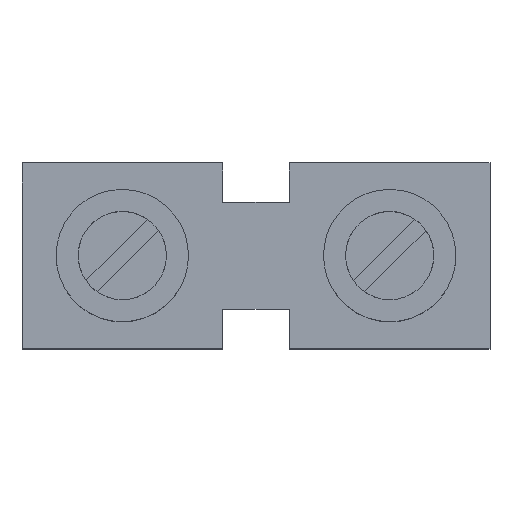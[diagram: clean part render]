
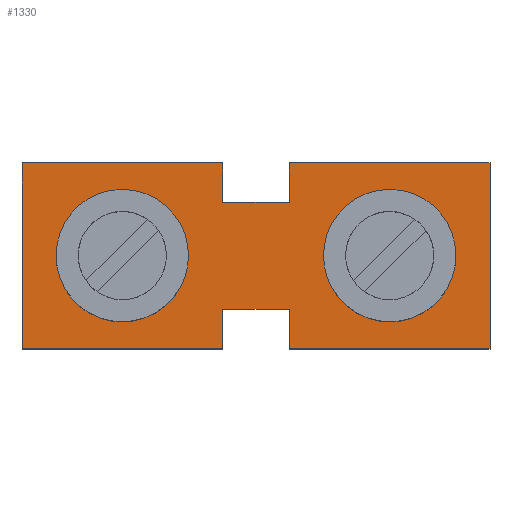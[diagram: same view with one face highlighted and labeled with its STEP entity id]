
A CAD part, top view. The second image highlights one B-rep face of the part: STEP entity #1330.
In plain terms, the highlighted planar face has unit normal (0, 0, 1).
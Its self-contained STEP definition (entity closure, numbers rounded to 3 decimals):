
#61=CARTESIAN_POINT('',(20.,2.95,13.5));
#62=VERTEX_POINT('',#61);
#69=CARTESIAN_POINT('',(20.,0.,13.5));
#70=VERTEX_POINT('',#69);
#71=CARTESIAN_POINT('',(20.,2.95,13.5));
#72=DIRECTION('',(0.,-1.,0.));
#73=VECTOR('',#72,2.95);
#74=LINE('',#71,#73);
#75=EDGE_CURVE('',#62,#70,#74,.T.);
#91=CARTESIAN_POINT('',(15.,2.95,13.5));
#92=VERTEX_POINT('',#91);
#101=CARTESIAN_POINT('',(15.,2.95,13.5));
#102=DIRECTION('',(1.,0.,0.));
#103=VECTOR('',#102,5.);
#104=LINE('',#101,#103);
#105=EDGE_CURVE('',#92,#62,#104,.T.);
#132=CARTESIAN_POINT('',(15.,0.,13.5));
#133=VERTEX_POINT('',#132);
#140=CARTESIAN_POINT('',(15.,0.,13.5));
#141=DIRECTION('',(0.,1.,0.));
#142=VECTOR('',#141,2.95);
#143=LINE('',#140,#142);
#144=EDGE_CURVE('',#133,#92,#143,.T.);
#169=CARTESIAN_POINT('',(20.,10.95,13.5));
#170=VERTEX_POINT('',#169);
#203=CARTESIAN_POINT('',(20.,13.9,13.5));
#204=VERTEX_POINT('',#203);
#211=CARTESIAN_POINT('',(20.,13.9,13.5));
#212=DIRECTION('',(0.,-1.,0.));
#213=VECTOR('',#212,2.95);
#214=LINE('',#211,#213);
#215=EDGE_CURVE('',#204,#170,#214,.T.);
#226=CARTESIAN_POINT('',(15.,10.95,13.5));
#227=VERTEX_POINT('',#226);
#228=CARTESIAN_POINT('',(20.,10.95,13.5));
#229=DIRECTION('',(-1.,0.,0.));
#230=VECTOR('',#229,5.);
#231=LINE('',#228,#230);
#232=EDGE_CURVE('',#170,#227,#231,.T.);
#273=CARTESIAN_POINT('',(15.,13.9,13.5));
#274=VERTEX_POINT('',#273);
#275=CARTESIAN_POINT('',(15.,10.95,13.5));
#276=DIRECTION('',(0.,1.,0.));
#277=VECTOR('',#276,2.95);
#278=LINE('',#275,#277);
#279=EDGE_CURVE('',#227,#274,#278,.T.);
#359=CARTESIAN_POINT('',(35.,13.9,13.5));
#360=VERTEX_POINT('',#359);
#361=CARTESIAN_POINT('',(20.,13.9,13.5));
#362=DIRECTION('',(1.,0.,0.));
#363=VECTOR('',#362,15.);
#364=LINE('',#361,#363);
#365=EDGE_CURVE('',#204,#360,#364,.T.);
#437=CARTESIAN_POINT('',(0.,13.9,13.5));
#438=VERTEX_POINT('',#437);
#439=CARTESIAN_POINT('',(0.,13.9,13.5));
#440=DIRECTION('',(1.,0.,0.));
#441=VECTOR('',#440,15.);
#442=LINE('',#439,#441);
#443=EDGE_CURVE('',#438,#274,#442,.T.);
#501=CARTESIAN_POINT('',(35.,0.,13.5));
#502=VERTEX_POINT('',#501);
#509=CARTESIAN_POINT('',(20.,0.,13.5));
#510=DIRECTION('',(1.,0.,0.));
#511=VECTOR('',#510,15.);
#512=LINE('',#509,#511);
#513=EDGE_CURVE('',#70,#502,#512,.T.);
#942=CARTESIAN_POINT('',(27.5,9.95,13.5));
#943=VERTEX_POINT('',#942);
#944=CARTESIAN_POINT('',(27.5,6.95,13.5));
#945=DIRECTION('',(0.,1.,0.));
#946=DIRECTION('',(0.,0.,-1.));
#947=AXIS2_PLACEMENT_3D('',#944,#946,#945);
#948=CIRCLE('',#947,3.);
#949=EDGE_CURVE('',#943,#943,#948,.T.);
#1019=CARTESIAN_POINT('',(7.5,9.95,13.5));
#1020=VERTEX_POINT('',#1019);
#1021=CARTESIAN_POINT('',(7.5,6.95,13.5));
#1022=DIRECTION('',(0.,1.,0.));
#1023=DIRECTION('',(0.,0.,-1.));
#1024=AXIS2_PLACEMENT_3D('',#1021,#1023,#1022);
#1025=CIRCLE('',#1024,3.);
#1026=EDGE_CURVE('',#1020,#1020,#1025,.T.);
#1100=CARTESIAN_POINT('',(35.,0.,13.5));
#1101=DIRECTION('',(0.,1.,0.));
#1102=VECTOR('',#1101,13.9);
#1103=LINE('',#1100,#1102);
#1104=EDGE_CURVE('',#502,#360,#1103,.T.);
#1197=CARTESIAN_POINT('',(0.,0.,13.5));
#1198=VERTEX_POINT('',#1197);
#1207=CARTESIAN_POINT('',(0.,0.,13.5));
#1208=DIRECTION('',(1.,0.,0.));
#1209=VECTOR('',#1208,15.);
#1210=LINE('',#1207,#1209);
#1211=EDGE_CURVE('',#1198,#133,#1210,.T.);
#1300=CARTESIAN_POINT('',(17.5,6.95,13.5));
#1301=DIRECTION('',(0.,1.,0.));
#1302=DIRECTION('',(0.,-0.,1.));
#1303=AXIS2_PLACEMENT_3D('',#1300,#1302,#1301);
#1304=PLANE('',#1303);
#1305=CARTESIAN_POINT('',(0.,13.9,13.5));
#1306=DIRECTION('',(0.,-1.,0.));
#1307=VECTOR('',#1306,13.9);
#1308=LINE('',#1305,#1307);
#1309=EDGE_CURVE('',#438,#1198,#1308,.T.);
#1310=ORIENTED_EDGE('E111',*,*,#1309,.T.);
#1311=ORIENTED_EDGE('E111',*,*,#1211,.T.);
#1312=ORIENTED_EDGE('E111',*,*,#144,.T.);
#1313=ORIENTED_EDGE('E111',*,*,#105,.T.);
#1314=ORIENTED_EDGE('E111',*,*,#75,.T.);
#1315=ORIENTED_EDGE('E111',*,*,#513,.T.);
#1316=ORIENTED_EDGE('E111',*,*,#1104,.T.);
#1317=ORIENTED_EDGE('E111',*,*,#365,.F.);
#1318=ORIENTED_EDGE('E111',*,*,#215,.T.);
#1319=ORIENTED_EDGE('E111',*,*,#232,.T.);
#1320=ORIENTED_EDGE('E111',*,*,#279,.T.);
#1321=ORIENTED_EDGE('E111',*,*,#443,.F.);
#1322=EDGE_LOOP('',(#1310,#1311,#1312,#1313,#1314,#1315,#1316,#1317,#1318,#1319,#1320,#1321));
#1323=FACE_OUTER_BOUND('',#1322,.T.);
#1324=ORIENTED_EDGE('',*,*,#1026,.T.);
#1325=EDGE_LOOP('',(#1324));
#1326=FACE_BOUND('',#1325,.T.);
#1327=ORIENTED_EDGE('',*,*,#949,.T.);
#1328=EDGE_LOOP('',(#1327));
#1329=FACE_BOUND('',#1328,.T.);
#1330=ADVANCED_FACE('F44',(#1323,#1326,#1329),#1304,.T.);
